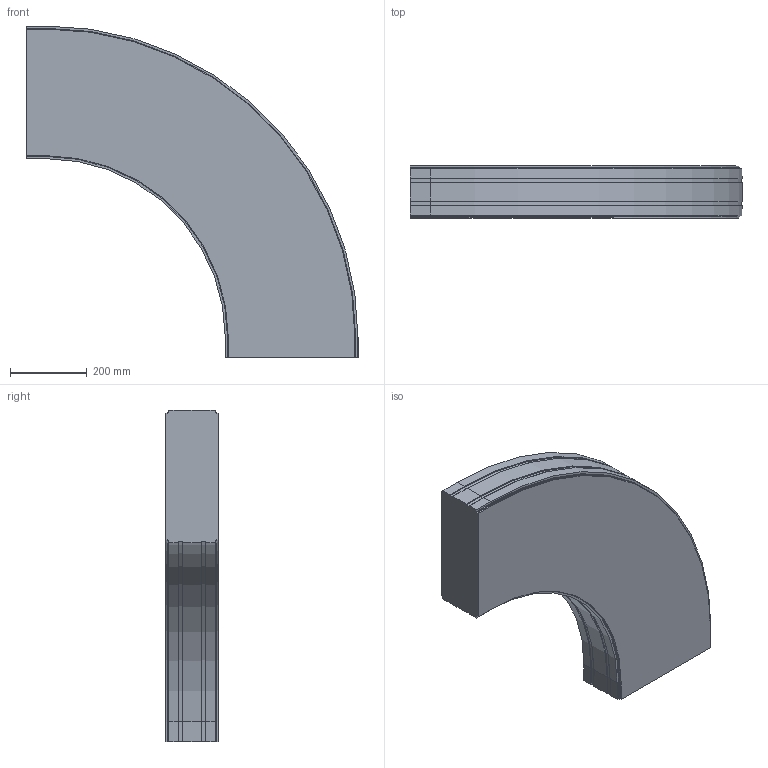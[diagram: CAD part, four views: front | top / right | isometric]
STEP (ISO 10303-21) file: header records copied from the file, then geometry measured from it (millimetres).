
FILE_DESCRIPTION (( 'STEP AP214' ), '1' );
FILE_NAME ('FS-MTC2-150-INOX horizontaalbocht.350 90°.STEP', '2017-02-08T12:40:31', ( '' ), ( '' ), 'SwSTEP 2.0', 'SolidWorks 2016', '' );
FILE_SCHEMA (( 'AUTOMOTIVE_DESIGN' ));
Length unit declared in the file: millimetre
Products named in the file (1): FS-MTC2-150-INOX horizontaalbocht.350 90°
Bounding box: 865.5 x 136.5 x 865.5 mm (x, y, z)
Volume: 52101946.5 mm3; surface area: 1187506.2 mm2
Topology: 1 solids, 1 shells, 74 faces, 216 edges, 144 vertices
Faces by surface type: plane 56, cylinder 18
Entity records: 2470 total; most frequent: CARTESIAN_POINT 435, ORIENTED_EDGE 432, DIRECTION 402, EDGE_CURVE 216, VECTOR 180, LINE 180, VERTEX_POINT 144, AXIS2_PLACEMENT_3D 111
